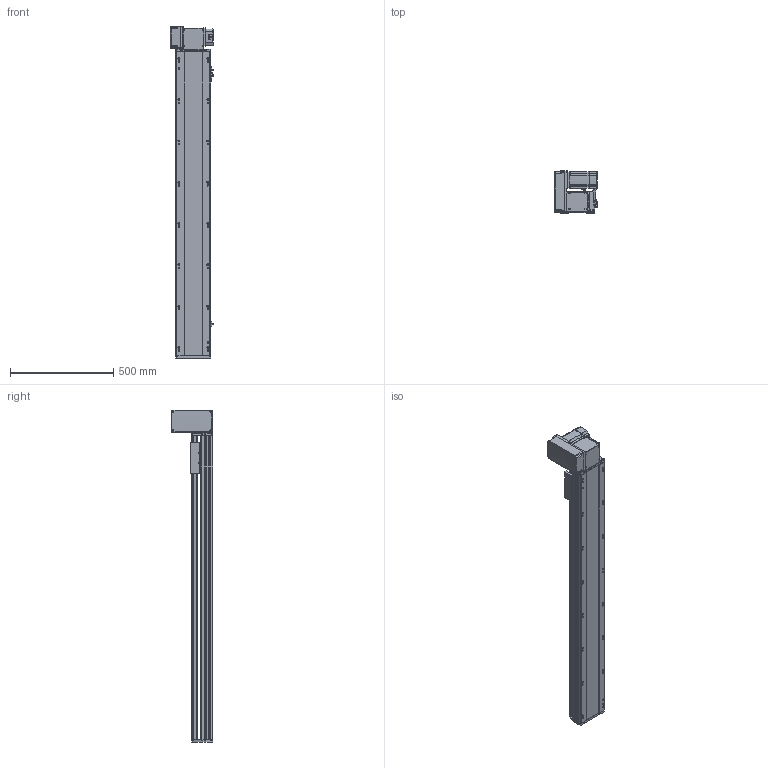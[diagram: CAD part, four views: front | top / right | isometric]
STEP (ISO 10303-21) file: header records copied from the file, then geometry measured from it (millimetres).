
FILE_DESCRIPTION (( 'STEP AP214' ), '1' );
FILE_NAME ('RTB17S-XX-1200-LW-M75-C4.STEP', '2025-12-12T01:05:03', ( '' ), ( '' ), 'SwSTEP 2.0', 'SolidWorks 2018', '' );
FILE_SCHEMA (( 'AUTOMOTIVE_DESIGN' ));
Length unit declared in the file: millimetre
Products named in the file (15): RTB17S-L-001-耜醱啣^RTB17S-XX-XX-LW-M75-C4; RTH13-BL-012覜茼え俋离^RTB17S-賑釱_RTB17S-XX-XX-LW-M75-C4; EE672^RTB17S-XX-XX-LW-M75-C4; RTB17-R-011菁釱^RTB17S-XX-XX-LW-M75-C4; RTB17S-XX-1200-LW-M75-C4; RTB22S-GY-017P^RTB17S-LW-々湍釱蚾饜-750W_RTB17S-XX-XX-LW-M75-C4; RTB22S-GY-008-M75--萇儂啣^RTB17S-LW-々湍釱蚾饜-750W_RTB17S-XX-XX-LW-M75-C4; RTB22S-GY-005P^RTB17S-LW-々湍釱蚾饜-750W_RTB17S-XX-XX-LW-M75-C4; RTB17S-L-014-T20-P75--々湍釱^RTB17S-LW-々湍釱蚾饜-750W_RTB17S-XX-XX-LW-M75-C4; RTB17S-L-004-賑釱^RTB17S-賑釱_RTB17S-XX-XX-LW-M75-C4; 750W萇儂^RTB17S-XX-XX-LW-M75-C4; RTB17S-L-007奻裔^RTB17S-XX-XX-LW-M75-C4; RTB17S-賑釱^RTB17S-XX-XX-LW-M75-C4; RTB17S-LW-々湍釱蚾饜-750W^RTB17S-XX-XX-LW-M75-C4; RTB22S-GY-018P^RTB17S-LW-々湍釱蚾饜-750W_RTB17S-XX-XX-LW-M75-C4
Assembly tree (17 placements, depth 3):
  RTB17S-XX-1200-LW-M75-C4
    RTB17-R-011菁釱^RTB17S-XX-XX-LW-M75-C4
    EE672^RTB17S-XX-XX-LW-M75-C4  x3
    RTB17S-L-001-耜醱啣^RTB17S-XX-XX-LW-M75-C4
    RTB17S-賑釱^RTB17S-XX-XX-LW-M75-C4
      RTB17S-L-004-賑釱^RTB17S-賑釱_RTB17S-XX-XX-LW-M75-C4
      RTH13-BL-012覜茼え俋离^RTB17S-賑釱_RTB17S-XX-XX-LW-M75-C4
    RTB17S-L-007奻裔^RTB17S-XX-XX-LW-M75-C4
    750W萇儂^RTB17S-XX-XX-LW-M75-C4
    RTB17S-LW-々湍釱蚾饜-750W^RTB17S-XX-XX-LW-M75-C4
      RTB17S-L-014-T20-P75--々湍釱^RTB17S-LW-々湍釱蚾饜-750W_RTB17S-XX-XX-LW-M75-C4
      RTB22S-GY-005P^RTB17S-LW-々湍釱蚾饜-750W_RTB17S-XX-XX-LW-M75-C4
      RTB22S-GY-017P^RTB17S-LW-々湍釱蚾饜-750W_RTB17S-XX-XX-LW-M75-C4  x2
      RTB22S-GY-008-M75--萇儂啣^RTB17S-LW-々湍釱蚾饜-750W_RTB17S-XX-XX-LW-M75-C4
      RTB22S-GY-018P^RTB17S-LW-々湍釱蚾饜-750W_RTB17S-XX-XX-LW-M75-C4
Bounding box: 210.4 x 201.5 x 1607.5 mm (x, y, z)
Volume: 13453992 mm3; surface area: 2315685.6 mm2
Topology: 17 solids, 17 shells, 2105 faces, 5836 edges, 3770 vertices
Faces by surface type: plane 972, cylinder 717, bspline 294, cone 110, sphere 8, torus 4
Entity records: 58870 total; most frequent: CARTESIAN_POINT 17300, ORIENTED_EDGE 8516, DIRECTION 7952, EDGE_CURVE 4258, AXIS2_PLACEMENT_3D 2790, VERTEX_POINT 2774, VECTOR 2372, LINE 2372
